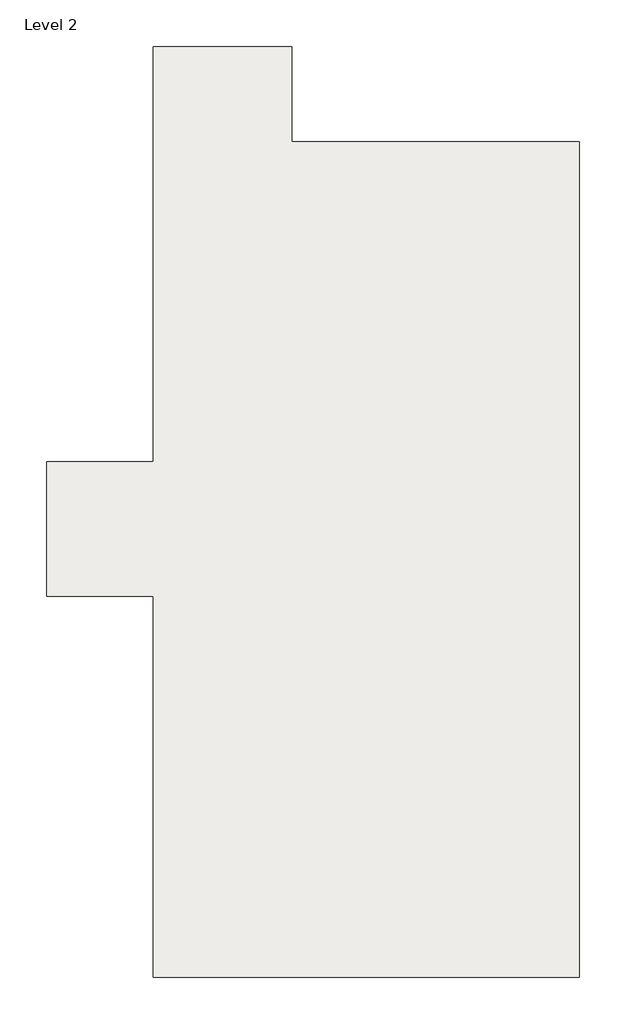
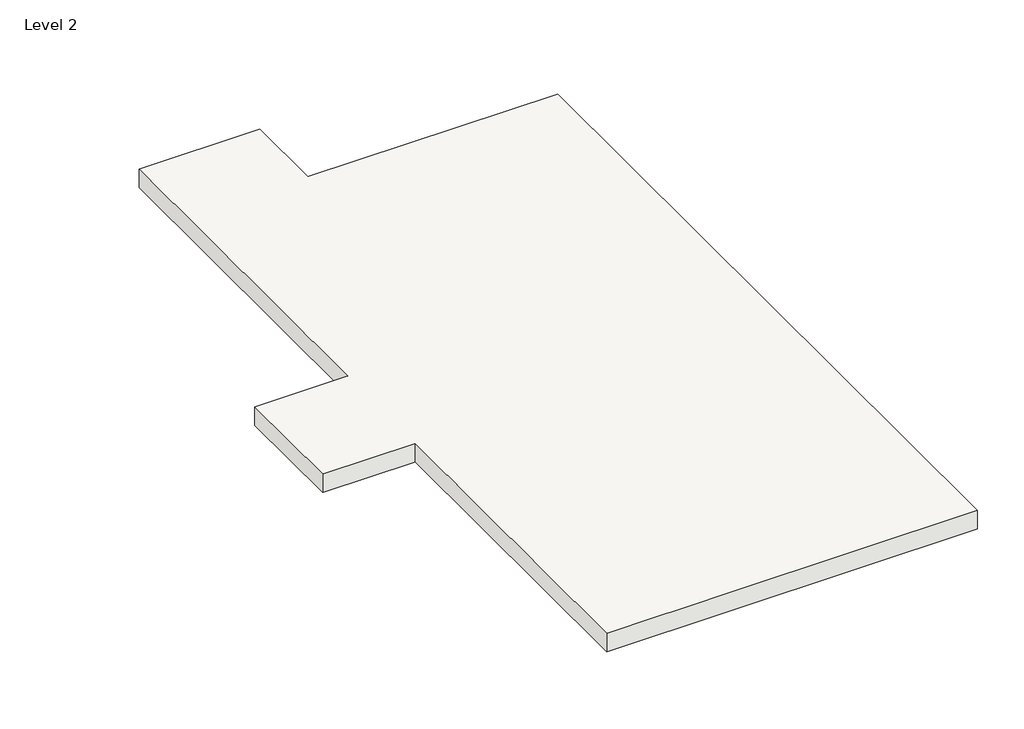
# One storey: 1 slab.
"""IFC4 building model written with IfcOpenShell, lengths in millimetres."""

from ifc_helpers import new_model, si_unit, frame, origin, place, context, project, spatial, polyline, outline, extrude, element, save

model = new_model("IFC4")

# Units and contexts
model_context = context("Model", 3, world=origin())
ifc_project = project(units=[si_unit("LENGTHUNIT", "METRE", prefix="MILLI")], contexts=[model_context])

# Site, building, storey
site = spatial("IfcSite", under=ifc_project)
building = spatial("IfcBuilding", under=site)
storey = spatial("IfcBuildingStorey", under=building, Name="Level 2", Elevation=3200.0)

# Slab
placement = place(None, origin())
element("IfcSlab", 1, ObjectType="Concrete Slab - 6\"", at=placement, inside=storey, context=model_context, shape_type="SweptSolid", body=[
    extrude(outline(polyline([(3077.9525098, 3087.7866664), (3077.9525098, 10487.7866664), (5550.4525708, 10487.7866664), (5550.4525708, 8787.7866664), (10677.9525098, 8787.7866664), (10677.9525098, -6109.0133336), (3077.9525098, -6109.0133336), (3077.9525098, 687.7866664), (1177.9525098, 687.7866664), (1177.9525098, 3087.7866664), (3077.9525098, 3087.7866664)])), frame((0.0, 0.0, 2800.0), z_axis=(0.0, 0.0, 1.0), x_axis=(1.0, 0.0, 0.0)), (0.0, 0.0, 1.0), 400.0),
])

save(model, "model.ifc")
